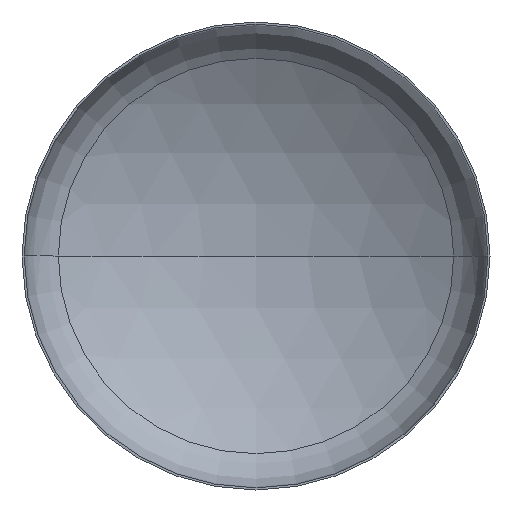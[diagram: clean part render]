
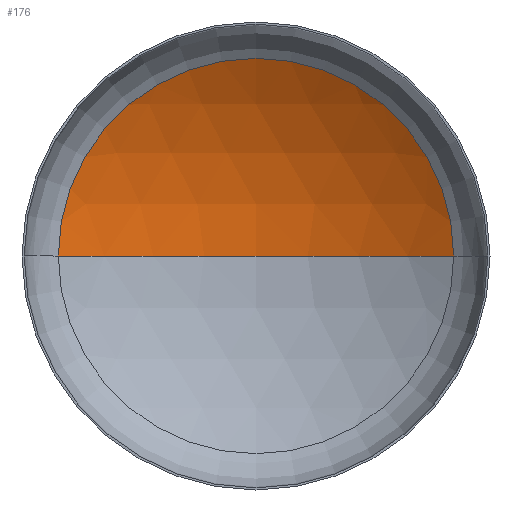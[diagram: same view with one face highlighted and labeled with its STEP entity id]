
A CAD part, front view. The second image highlights one B-rep face of the part: STEP entity #176.
In plain terms, the highlighted spherical face has radius 3600 mm.
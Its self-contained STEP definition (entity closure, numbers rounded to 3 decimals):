
#16 = DIRECTION ( 'NONE',  ( 1., 0., 0. ) ) ;
#22 = DIRECTION ( 'NONE',  ( 0., -1., 0. ) ) ;
#26 = CARTESIAN_POINT ( 'NONE',  ( 0., 660.201, 0. ) ) ;
#42 = AXIS2_PLACEMENT_3D ( 'NONE', #245, #205, #239 ) ;
#44 = AXIS2_PLACEMENT_3D ( 'NONE', #195, #197, #206 ) ;
#50 = CARTESIAN_POINT ( 'NONE',  ( 1900.998, 660.201, 0. ) ) ;
#53 = AXIS2_PLACEMENT_3D ( 'NONE', #152, #303, #332 ) ;
#58 = AXIS2_PLACEMENT_3D ( 'NONE', #26, #22, #16 ) ;
#64 = VERTEX_POINT ( 'NONE', #216 ) ;
#73 = VERTEX_POINT ( 'NONE', #224 ) ;
#75 = ORIENTED_EDGE ( 'NONE', *, *, #129, .T. ) ;
#86 = ORIENTED_EDGE ( 'NONE', *, *, #130, .T. ) ;
#129 = EDGE_CURVE ( 'NONE', #313, #73, #346, .T. ) ;
#130 = EDGE_CURVE ( 'NONE', #64, #313, #275, .T. ) ;
#132 = EDGE_CURVE ( 'NONE', #64, #73, #146, .T. ) ;
#146 = CIRCLE ( 'NONE', #44, 3600. ) ;
#152 = CARTESIAN_POINT ( 'NONE',  ( 0., -2396.955, 0. ) ) ;
#176 = ADVANCED_FACE ( 'NONE', ( #402 ), #340, .F. ) ;
#195 = CARTESIAN_POINT ( 'NONE',  ( 0., -2396.955, 0. ) ) ;
#197 = DIRECTION ( 'NONE',  ( 0., 0., 1. ) ) ;
#205 = DIRECTION ( 'NONE',  ( 0., 0., -1. ) ) ;
#206 = DIRECTION ( 'NONE',  ( 1., 0., 0. ) ) ;
#216 = CARTESIAN_POINT ( 'NONE',  ( 0., 1203.045, 0. ) ) ;
#224 = CARTESIAN_POINT ( 'NONE',  ( -1900.998, 660.201, 0. ) ) ;
#239 = DIRECTION ( 'NONE',  ( -1., 0., 0. ) ) ;
#245 = CARTESIAN_POINT ( 'NONE',  ( 0., -2396.955, 0. ) ) ;
#252 = ORIENTED_EDGE ( 'NONE', *, *, #132, .F. ) ;
#258 = EDGE_LOOP ( 'NONE', ( #252, #86, #75 ) ) ;
#275 = CIRCLE ( 'NONE', #53, 3600. ) ;
#303 = DIRECTION ( 'NONE',  ( 0., 0., -1. ) ) ;
#313 = VERTEX_POINT ( 'NONE', #50 ) ;
#332 = DIRECTION ( 'NONE',  ( -1., 0., 0. ) ) ;
#340 = SPHERICAL_SURFACE ( 'NONE', #42, 3600. ) ;
#346 = CIRCLE ( 'NONE', #58, 1900.998 ) ;
#402 = FACE_OUTER_BOUND ( 'NONE', #258, .T. ) ;
